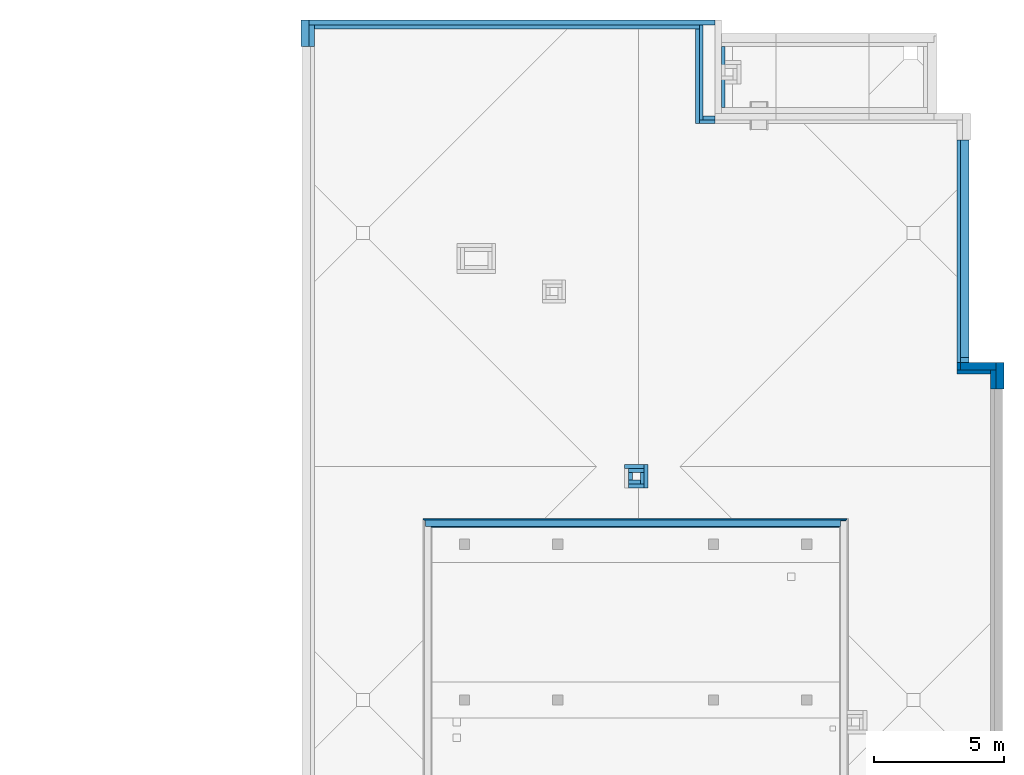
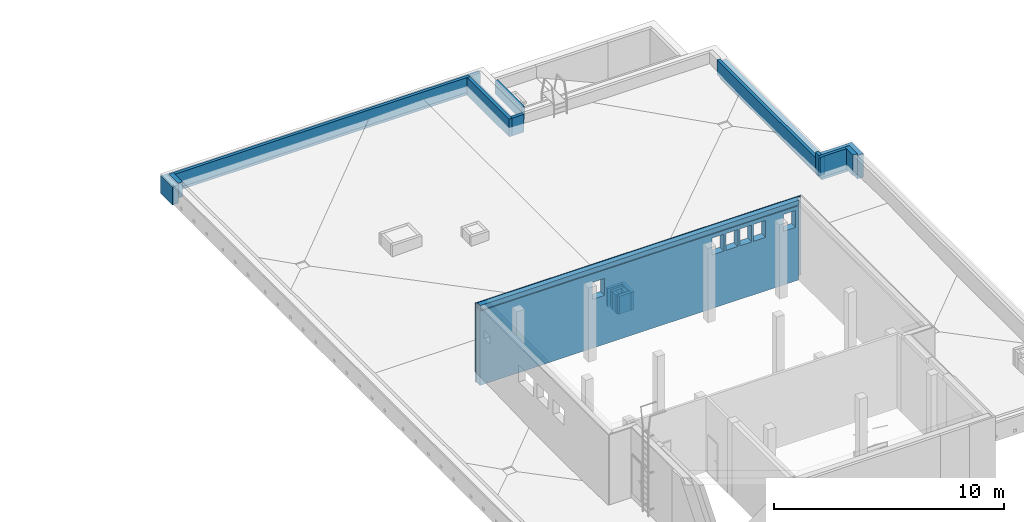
# One storey, part 7 of 17: 24 walls, 32 openings.
"""IFC4 building model written with IfcOpenShell, lengths in metres."""

from ifc_helpers import new_model, entity, si_unit, converted_unit, derived_unit, frame, frame_2d, origin, origin_with_axes, place, context, subcontext, project, spatial, polyline, rectangle, outline, extrude, clip, bounded_halfspace, material, layer, layer_set, layer_usage, element, save


model = new_model("IFC4")

# Units and contexts
model_context = context("Model", 3, precision=1e-05, world=origin())
body_context = subcontext(model_context, "Body", "Model", "MODEL_VIEW")
ifc_project = project(units=[si_unit("LENGTHUNIT", "METRE"), si_unit("AREAUNIT", "SQUARE_METRE"), si_unit("VOLUMEUNIT", "CUBIC_METRE"), si_unit("MASSUNIT", "GRAM", prefix="KILO"), converted_unit("PLANEANGLEUNIT", "DEGREE", entity("IfcPlaneAngleMeasure", 0.0174532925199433), si_unit("PLANEANGLEUNIT", "RADIAN"), dimensions=[0, 0, 0, 0, 0, 0, 0]), derived_unit("THERMALTRANSMITTANCEUNIT", [(si_unit("POWERUNIT", "WATT"), 1), (si_unit("THERMODYNAMICTEMPERATUREUNIT", "KELVIN"), -1), (si_unit("LENGTHUNIT", "METRE"), -2)]), derived_unit("VOLUMETRICFLOWRATEUNIT", [(si_unit("LENGTHUNIT", "METRE"), 3), (converted_unit("TIMEUNIT", "hour", entity("IfcTimeMeasure", 3600.0), si_unit("TIMEUNIT", "SECOND"), dimensions=[0, 0, 1, 0, 0, 0, 0]), -1), (si_unit("LENGTHUNIT", "METRE"), -1)])], contexts=[model_context])

# Site, building, storey
site_placement = place(None, origin())
site = spatial("IfcSite", under=ifc_project, at=site_placement, Name="3. ASŘ", CompositionType="ELEMENT")
building_placement = place(site_placement, origin())
building = spatial("IfcBuilding", under=site, at=building_placement, Name="Pavilon C", CompositionType="ELEMENT")
storey_placement = place(building_placement, frame((0.0, 0.0, 13.8)))
storey = spatial("IfcBuildingStorey", under=building, at=storey_placement, Name="Půdorys 5.NP", CompositionType="ELEMENT", Elevation=13.8)

# Walls
ifc_material_1 = material(Name="ZDIVO Z CDm")
ifc_layer_1 = layer(ifc_material_1, 0.150000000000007)
ifc_layer_set_1 = layer_set([ifc_layer_1])
ifc_layer_usage_1 = layer_usage(ifc_layer_set_1, "AXIS2", "POSITIVE", 0.0)
wall_1_placement = place(storey_placement, frame((37.525, 15.975, -0.1), z_axis=(0.0, 0.0, 1.0), x_axis=(0.0, -1.0, 0.0)))
element("IfcWall", 1, at=wall_1_placement, inside=storey, material=ifc_layer_usage_1, Name="ZDIVO Z CDm", context=body_context, shape_type="SweptSolid", body=[
    extrude(rectangle(XDim=0.450000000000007, YDim=0.150000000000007, at=frame_2d((0.225000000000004, 0.0750000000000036), x_axis=(1.0, 0.0))), origin_with_axes(), (0.0, 0.0, 1.0), 0.95),
])
ifc_material_2 = material(Name="ZDIVO Z CDm")
ifc_layer_2 = layer(ifc_material_2, 0.150000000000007)
ifc_layer_set_2 = layer_set([ifc_layer_2])
ifc_layer_usage_2 = layer_usage(ifc_layer_set_2, "AXIS2", "POSITIVE", 0.0)
wall_2_placement = place(storey_placement, frame((37.525, 15.675, -0.1), z_axis=(0.0, 0.0, 1.0), x_axis=(-1.0, 0.0, 0.0)))
element("IfcWall", 2, at=wall_2_placement, inside=storey, material=ifc_layer_usage_2, Name="ZDIVO Z CDm", context=body_context, shape_type="SweptSolid", body=[
    extrude(rectangle(XDim=0.450000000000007, YDim=0.150000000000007, at=frame_2d((0.225000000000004, 0.0750000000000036), x_axis=(1.0, 0.0))), origin_with_axes(), (0.0, 0.0, 1.0), 0.95),
])
ifc_material_3 = material(Name="ZDIVO Z CDm")
ifc_layer_3 = layer(ifc_material_3, 0.150000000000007)
ifc_layer_set_3 = layer_set([ifc_layer_3])
ifc_layer_usage_3 = layer_usage(ifc_layer_set_3, "AXIS2", "POSITIVE", 0.0)
wall_3_placement = place(storey_placement, frame((37.225, 15.675, -0.1), z_axis=(0.0, 0.0, 1.0), x_axis=(-4.85063840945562e-14, 1.0, 0.0)))
element("IfcWall", 3, at=wall_3_placement, inside=storey, material=ifc_layer_usage_3, Name="ZDIVO Z CDm", context=body_context, shape_type="SweptSolid", body=[
    extrude(rectangle(XDim=0.3, YDim=0.150000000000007, at=frame_2d((0.15, 0.0750000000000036), x_axis=(1.0, 0.0))), origin_with_axes(), (0.0, 0.0, 1.0), 0.95),
])
ifc_material_4 = material(Name="ZDIVO Z CDm")
ifc_layer_4 = layer(ifc_material_4, 0.150000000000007)
ifc_layer_set_4 = layer_set([ifc_layer_4])
ifc_layer_usage_4 = layer_usage(ifc_layer_set_4, "AXIS2", "POSITIVE", 0.0)
wall_4_placement = place(storey_placement, frame((37.075, 15.975, -0.1)))
element("IfcWall", 4, at=wall_4_placement, inside=storey, material=ifc_layer_usage_4, Name="ZDIVO Z CDm", context=body_context, shape_type="SweptSolid", body=[
    extrude(rectangle(XDim=0.600000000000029, YDim=0.150000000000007, at=frame_2d((0.300000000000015, 0.0750000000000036), x_axis=(1.0, 0.0))), origin_with_axes(), (0.0, 0.0, 1.0), 0.95),
])

# Wall, openings
ifc_material_5 = material(Name="EPS")
ifc_layer_5 = layer(ifc_material_5, 0.05)
ifc_material_6 = material(Name="PLYNOSILIKÁT")
ifc_layer_6 = layer(ifc_material_6, 0.3)
ifc_layer_set_5 = layer_set([ifc_layer_5, ifc_layer_6])
ifc_layer_usage_5 = layer_usage(ifc_layer_set_5, "AXIS2", "POSITIVE", -0.05)
wall_5_placement = place(storey_placement, frame((45.5, 14.2, -0.1), z_axis=(0.0, 0.0, 1.0), x_axis=(-1.0, 0.0, 0.0)))
wall_5 = element("IfcWall", 5, at=wall_5_placement, inside=storey, material=ifc_layer_usage_5, Name="PLYNOSILIKÁT", context=body_context, shape_type="Clipping", body=[
    clip(extrude(outline(polyline([(-16.35, -0.35), (0.0, -0.35), (0.0, -0.3), (-0.05, -0.3), (-0.05, 0.0), (-16.05, 0.0), (-16.05, -0.3), (-16.35, -0.3), (-16.35, -0.35)])), frame((16.35, 0.35, 0.0), z_axis=(0.0, 0.0, 1.0), x_axis=(1.0, 0.0, 0.0)), (0.0, 0.0, 1.0), 4.2), bounded_halfspace(frame((8.3, 0.2, 3.95), z_axis=(0.0, 0.0, -1.0), x_axis=(1.0, 0.0, 0.0)), True, origin_with_axes(), polyline([(0.3, 0.05), (16.3, 0.05), (16.3, 0.35), (0.3, 0.35), (0.3, 0.05)]))),
])
opening_1_placement = place(wall_5_placement, frame((4.05, 0.0, 2.85), z_axis=(0.0, 1.0, 0.0), x_axis=(0.0, 0.0, 1.0)))
element("IfcOpeningElement", 6, at=opening_1_placement, cuts=wall_5, Name="Prostup stěnou", ObjectType="Opening", context=body_context, shape_type="SweptSolid", body=[
    extrude(outline(polyline([(0.0, 0.6), (0.9, 0.6), (0.9, 0.0), (0.0, 0.0), (0.0, 0.6)])), origin_with_axes(), (0.0, 0.0, 1.0), 0.05),
    extrude(outline(polyline([(0.0, 0.6), (0.9, 0.6), (0.9, 0.0), (0.0, 0.0), (0.0, 0.6)])), frame((0.0, 0.0, 0.05), z_axis=(0.0, 0.0, 1.0), x_axis=(1.0, 0.0, 0.0)), (0.0, 0.0, 1.0), 0.3),
])
opening_2_placement = place(wall_5_placement, frame((3.35, 0.0, 2.85), z_axis=(0.0, 1.0, 0.0), x_axis=(0.0, 0.0, 1.0)))
element("IfcOpeningElement", 7, at=opening_2_placement, cuts=wall_5, Name="Prostup stěnou", ObjectType="Opening", context=body_context, shape_type="SweptSolid", body=[
    extrude(outline(polyline([(0.0, 0.6), (0.9, 0.6), (0.9, 0.0), (0.0, 0.0), (0.0, 0.6)])), origin_with_axes(), (0.0, 0.0, 1.0), 0.05),
    extrude(outline(polyline([(0.0, 0.6), (0.9, 0.6), (0.9, 0.0), (0.0, 0.0), (0.0, 0.6)])), frame((0.0, 0.0, 0.05), z_axis=(0.0, 0.0, 1.0), x_axis=(1.0, 0.0, 0.0)), (0.0, 0.0, 1.0), 0.3),
])
opening_3_placement = place(wall_5_placement, frame((2.65, 0.0, 2.85), z_axis=(0.0, 1.0, 0.0), x_axis=(0.0, 0.0, 1.0)))
element("IfcOpeningElement", 8, at=opening_3_placement, cuts=wall_5, Name="Prostup stěnou", ObjectType="Opening", context=body_context, shape_type="SweptSolid", body=[
    extrude(outline(polyline([(0.0, 0.6), (0.9, 0.6), (0.9, 0.0), (0.0, 0.0), (0.0, 0.6)])), origin_with_axes(), (0.0, 0.0, 1.0), 0.05),
    extrude(outline(polyline([(0.0, 0.6), (0.9, 0.6), (0.9, 0.0), (0.0, 0.0), (0.0, 0.6)])), frame((0.0, 0.0, 0.05), z_axis=(0.0, 0.0, 1.0), x_axis=(1.0, 0.0, 0.0)), (0.0, 0.0, 1.0), 0.3),
])
opening_4_placement = place(wall_5_placement, frame((1.95, 0.0, 2.85), z_axis=(0.0, 1.0, 0.0), x_axis=(0.0, 0.0, 1.0)))
element("IfcOpeningElement", 9, at=opening_4_placement, cuts=wall_5, Name="Prostup stěnou", ObjectType="Opening", context=body_context, shape_type="SweptSolid", body=[
    extrude(outline(polyline([(0.0, 0.6), (0.9, 0.6), (0.9, 0.0), (0.0, 0.0), (0.0, 0.6)])), origin_with_axes(), (0.0, 0.0, 1.0), 0.05),
    extrude(outline(polyline([(0.0, 0.6), (0.9, 0.6), (0.9, 0.0), (0.0, 0.0), (0.0, 0.6)])), frame((0.0, 0.0, 0.05), z_axis=(0.0, 0.0, 1.0), x_axis=(1.0, 0.0, 0.0)), (0.0, 0.0, 1.0), 0.3),
])
opening_5_placement = place(wall_5_placement, frame((0.45, 0.0, 2.85), z_axis=(0.0, 1.0, 0.0), x_axis=(0.0, 0.0, 1.0)))
element("IfcOpeningElement", 10, at=opening_5_placement, cuts=wall_5, Name="Prostup stěnou", ObjectType="Opening", context=body_context, shape_type="SweptSolid", body=[
    extrude(outline(polyline([(0.0, 0.6), (0.9, 0.6), (0.9, 0.0), (0.0, 0.0), (0.0, 0.6)])), origin_with_axes(), (0.0, 0.0, 1.0), 0.05),
    extrude(outline(polyline([(0.0, 0.6), (0.9, 0.6), (0.9, 0.0), (0.0, 0.0), (0.0, 0.6)])), frame((0.0, 0.0, 0.05), z_axis=(0.0, 0.0, 1.0), x_axis=(1.0, 0.0, 0.0)), (0.0, 0.0, 1.0), 0.3),
])
opening_6_placement = place(wall_5_placement, frame((10.05, 0.0, 2.6), z_axis=(0.0, 1.0, 0.0), x_axis=(0.0, 0.0, 1.0)))
element("IfcOpeningElement", 11, at=opening_6_placement, cuts=wall_5, Name="Prostup stěnou", ObjectType="Opening", context=body_context, shape_type="SweptSolid", body=[
    extrude(outline(polyline([(0.0, 0.6), (0.9, 0.6), (0.9, 0.0), (0.0, 0.0), (0.0, 0.6)])), origin_with_axes(), (0.0, 0.0, 1.0), 0.05),
    extrude(outline(polyline([(0.0, 0.6), (0.9, 0.6), (0.9, 0.0), (0.0, 0.0), (0.0, 0.6)])), frame((0.0, 0.0, 0.05), z_axis=(0.0, 0.0, 1.0), x_axis=(1.0, 0.0, 0.0)), (0.0, 0.0, 1.0), 0.3),
])

ifc_material_7 = material(Name="ZELEZOBETONOVÁ KCE")
ifc_layer_7 = layer(ifc_material_7, 0.2)
ifc_layer_set_6 = layer_set([ifc_layer_7])
ifc_layer_usage_6 = layer_usage(ifc_layer_set_6, "AXIS2", "POSITIVE", 0.0)
wall_6_placement = place(storey_placement, frame((40.4, 33.42, -0.1), z_axis=(0.0, 0.0, 1.0), x_axis=(-1.0, 0.0, 0.0)))
wall_6 = element("IfcWall", 12, at=wall_6_placement, inside=storey, material=ifc_layer_usage_6, Name="ZELEZOBETONOVÁ KCE", context=body_context, shape_type="SweptSolid", body=[
    extrude(rectangle(XDim=15.65, YDim=0.2, at=frame_2d((7.825, 0.1), x_axis=(1.0, 0.0))), origin_with_axes(), (0.0, 0.0, 1.0), 0.95),
])
opening_7_placement = place(wall_6_placement, frame((9.50000000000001, 0.0, 0.15), z_axis=(0.0, 1.0, 0.0), x_axis=(0.0, 0.0, 1.0)))
element("IfcOpeningElement", 13, at=opening_7_placement, cuts=wall_6, Name="Prostup stěnou", ObjectType="Opening", context=body_context, shape_type="SweptSolid", body=[
    extrude(outline(polyline([(0.0, 0.15), (0.15, 0.15), (0.15, 0.0), (0.0, 0.0), (0.0, 0.15)])), origin_with_axes(), (0.0, 0.0, 1.0), 0.2),
])
opening_8_placement = place(wall_6_placement, frame((10.25, 0.0, 0.15), z_axis=(0.0, 1.0, 0.0), x_axis=(0.0, 0.0, 1.0)))
element("IfcOpeningElement", 14, at=opening_8_placement, cuts=wall_6, Name="Prostup stěnou", ObjectType="Opening", context=body_context, shape_type="SweptSolid", body=[
    extrude(outline(polyline([(0.0, 0.15), (0.15, 0.15), (0.15, 0.0), (0.0, 0.0), (0.0, 0.15)])), origin_with_axes(), (0.0, 0.0, 1.0), 0.2),
])
opening_9_placement = place(wall_6_placement, frame((11.15, 0.0, 0.15), z_axis=(0.0, 1.0, 0.0), x_axis=(0.0, 0.0, 1.0)))
element("IfcOpeningElement", 15, at=opening_9_placement, cuts=wall_6, Name="Prostup stěnou", ObjectType="Opening", context=body_context, shape_type="SweptSolid", body=[
    extrude(outline(polyline([(0.0, 0.15), (0.15, 0.15), (0.15, 0.0), (0.0, 0.0), (0.0, 0.15)])), origin_with_axes(), (0.0, 0.0, 1.0), 0.2),
])
opening_10_placement = place(wall_6_placement, frame((11.9, 0.0, 0.15), z_axis=(0.0, 1.0, 0.0), x_axis=(0.0, 0.0, 1.0)))
element("IfcOpeningElement", 16, at=opening_10_placement, cuts=wall_6, Name="Prostup stěnou", ObjectType="Opening", context=body_context, shape_type="SweptSolid", body=[
    extrude(outline(polyline([(0.0, 0.15), (0.15, 0.15), (0.15, 0.0), (0.0, 0.0), (0.0, 0.15)])), origin_with_axes(), (0.0, 0.0, 1.0), 0.2),
])
opening_11_placement = place(wall_6_placement, frame((12.8, 0.0, 0.15), z_axis=(0.0, 1.0, 0.0), x_axis=(0.0, 0.0, 1.0)))
element("IfcOpeningElement", 17, at=opening_11_placement, cuts=wall_6, Name="Prostup stěnou", ObjectType="Opening", context=body_context, shape_type="SweptSolid", body=[
    extrude(outline(polyline([(0.0, 0.15), (0.15, 0.15), (0.15, 0.0), (0.0, 0.0), (0.0, 0.15)])), origin_with_axes(), (0.0, 0.0, 1.0), 0.2),
])
opening_12_placement = place(wall_6_placement, frame((13.55, 0.0, 0.15), z_axis=(0.0, 1.0, 0.0), x_axis=(0.0, 0.0, 1.0)))
element("IfcOpeningElement", 18, at=opening_12_placement, cuts=wall_6, Name="Prostup stěnou", ObjectType="Opening", context=body_context, shape_type="SweptSolid", body=[
    extrude(outline(polyline([(0.0, 0.15), (0.15, 0.15), (0.15, 0.0), (0.0, 0.0), (0.0, 0.15)])), origin_with_axes(), (0.0, 0.0, 1.0), 0.2),
])
opening_13_placement = place(wall_6_placement, frame((14.45, 0.0, 0.15), z_axis=(0.0, 1.0, 0.0), x_axis=(0.0, 0.0, 1.0)))
element("IfcOpeningElement", 19, at=opening_13_placement, cuts=wall_6, Name="Prostup stěnou", ObjectType="Opening", context=body_context, shape_type="SweptSolid", body=[
    extrude(outline(polyline([(0.0, 0.15), (0.15, 0.15), (0.15, 0.0), (0.0, 0.0), (0.0, 0.15)])), origin_with_axes(), (0.0, 0.0, 1.0), 0.2),
])
opening_14_placement = place(wall_6_placement, frame((15.2, 0.0, 0.15), z_axis=(0.0, 1.0, 0.0), x_axis=(0.0, 0.0, 1.0)))
element("IfcOpeningElement", 20, at=opening_14_placement, cuts=wall_6, Name="Prostup stěnou", ObjectType="Opening", context=body_context, shape_type="SweptSolid", body=[
    extrude(outline(polyline([(0.0, 0.15), (0.15, 0.15), (0.15, 0.0), (0.0, 0.0), (0.0, 0.15)])), origin_with_axes(), (0.0, 0.0, 1.0), 0.2),
])
opening_15_placement = place(wall_6_placement, frame((1.25000000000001, 0.0, 0.15), z_axis=(0.0, 1.0, 0.0), x_axis=(0.0, 0.0, 1.0)))
element("IfcOpeningElement", 21, at=opening_15_placement, cuts=wall_6, Name="Prostup stěnou", ObjectType="Opening", context=body_context, shape_type="SweptSolid", body=[
    extrude(outline(polyline([(0.0, 0.15), (0.15, 0.15), (0.15, 0.0), (0.0, 0.0), (0.0, 0.15)])), origin_with_axes(), (0.0, 0.0, 1.0), 0.2),
])
opening_16_placement = place(wall_6_placement, frame((2.00000000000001, 0.0, 0.15), z_axis=(0.0, 1.0, 0.0), x_axis=(0.0, 0.0, 1.0)))
element("IfcOpeningElement", 22, at=opening_16_placement, cuts=wall_6, Name="Prostup stěnou", ObjectType="Opening", context=body_context, shape_type="SweptSolid", body=[
    extrude(outline(polyline([(0.0, 0.15), (0.15, 0.15), (0.15, 0.0), (0.0, 0.0), (0.0, 0.15)])), origin_with_axes(), (0.0, 0.0, 1.0), 0.2),
])
opening_17_placement = place(wall_6_placement, frame((2.90000000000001, 0.0, 0.15), z_axis=(0.0, 1.0, 0.0), x_axis=(0.0, 0.0, 1.0)))
element("IfcOpeningElement", 23, at=opening_17_placement, cuts=wall_6, Name="Prostup stěnou", ObjectType="Opening", context=body_context, shape_type="SweptSolid", body=[
    extrude(outline(polyline([(0.0, 0.15), (0.15, 0.15), (0.15, 0.0), (0.0, 0.0), (0.0, 0.15)])), origin_with_axes(), (0.0, 0.0, 1.0), 0.2),
])
opening_18_placement = place(wall_6_placement, frame((3.65000000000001, 0.0, 0.15), z_axis=(0.0, 1.0, 0.0), x_axis=(0.0, 0.0, 1.0)))
element("IfcOpeningElement", 24, at=opening_18_placement, cuts=wall_6, Name="Prostup stěnou", ObjectType="Opening", context=body_context, shape_type="SweptSolid", body=[
    extrude(outline(polyline([(0.0, 0.15), (0.15, 0.15), (0.15, 0.0), (0.0, 0.0), (0.0, 0.15)])), origin_with_axes(), (0.0, 0.0, 1.0), 0.2),
])
opening_19_placement = place(wall_6_placement, frame((4.55000000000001, 0.0, 0.15), z_axis=(0.0, 1.0, 0.0), x_axis=(0.0, 0.0, 1.0)))
element("IfcOpeningElement", 25, at=opening_19_placement, cuts=wall_6, Name="Prostup stěnou", ObjectType="Opening", context=body_context, shape_type="SweptSolid", body=[
    extrude(outline(polyline([(0.0, 0.15), (0.15, 0.15), (0.15, 0.0), (0.0, 0.0), (0.0, 0.15)])), origin_with_axes(), (0.0, 0.0, 1.0), 0.2),
])
opening_20_placement = place(wall_6_placement, frame((5.30000000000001, 0.0, 0.15), z_axis=(0.0, 1.0, 0.0), x_axis=(0.0, 0.0, 1.0)))
element("IfcOpeningElement", 26, at=opening_20_placement, cuts=wall_6, Name="Prostup stěnou", ObjectType="Opening", context=body_context, shape_type="SweptSolid", body=[
    extrude(outline(polyline([(0.0, 0.15), (0.15, 0.15), (0.15, 0.0), (0.0, 0.0), (0.0, 0.15)])), origin_with_axes(), (0.0, 0.0, 1.0), 0.2),
])
opening_21_placement = place(wall_6_placement, frame((6.20000000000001, 0.0, 0.15), z_axis=(0.0, 1.0, 0.0), x_axis=(0.0, 0.0, 1.0)))
element("IfcOpeningElement", 27, at=opening_21_placement, cuts=wall_6, Name="Prostup stěnou", ObjectType="Opening", context=body_context, shape_type="SweptSolid", body=[
    extrude(outline(polyline([(0.0, 0.15), (0.15, 0.15), (0.15, 0.0), (0.0, 0.0), (0.0, 0.15)])), origin_with_axes(), (0.0, 0.0, 1.0), 0.2),
])
opening_22_placement = place(wall_6_placement, frame((6.95000000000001, 0.0, 0.15), z_axis=(0.0, 1.0, 0.0), x_axis=(0.0, 0.0, 1.0)))
element("IfcOpeningElement", 28, at=opening_22_placement, cuts=wall_6, Name="Prostup stěnou", ObjectType="Opening", context=body_context, shape_type="SweptSolid", body=[
    extrude(outline(polyline([(0.0, 0.15), (0.15, 0.15), (0.15, 0.0), (0.0, 0.0), (0.0, 0.15)])), origin_with_axes(), (0.0, 0.0, 1.0), 0.2),
])
opening_23_placement = place(wall_6_placement, frame((7.85000000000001, 0.0, 0.15), z_axis=(0.0, 1.0, 0.0), x_axis=(0.0, 0.0, 1.0)))
element("IfcOpeningElement", 29, at=opening_23_placement, cuts=wall_6, Name="Prostup stěnou", ObjectType="Opening", context=body_context, shape_type="SweptSolid", body=[
    extrude(outline(polyline([(0.0, 0.15), (0.15, 0.15), (0.15, 0.0), (0.0, 0.0), (0.0, 0.15)])), origin_with_axes(), (0.0, 0.0, 1.0), 0.2),
])
opening_24_placement = place(wall_6_placement, frame((8.60000000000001, 0.0, 0.15), z_axis=(0.0, 1.0, 0.0), x_axis=(0.0, 0.0, 1.0)))
element("IfcOpeningElement", 30, at=opening_24_placement, cuts=wall_6, Name="Prostup stěnou", ObjectType="Opening", context=body_context, shape_type="SweptSolid", body=[
    extrude(outline(polyline([(0.0, 0.15), (0.15, 0.15), (0.15, 0.0), (0.0, 0.0), (0.0, 0.15)])), origin_with_axes(), (0.0, 0.0, 1.0), 0.2),
])
opening_25_placement = place(wall_6_placement, frame((0.350000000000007, 0.0, 0.15), z_axis=(0.0, 1.0, 0.0), x_axis=(0.0, 0.0, 1.0)))
element("IfcOpeningElement", 31, at=opening_25_placement, cuts=wall_6, Name="Prostup stěnou", ObjectType="Opening", context=body_context, shape_type="SweptSolid", body=[
    extrude(outline(polyline([(0.0, 0.15), (0.15, 0.15), (0.15, 0.0), (0.0, 0.0), (0.0, 0.15)])), origin_with_axes(), (0.0, 0.0, 1.0), 0.2),
])

# Walls
ifc_material_8 = material(Name="ZELEZOBETONOVÁ KCE")
ifc_layer_8 = layer(ifc_material_8, 0.3)
ifc_layer_set_7 = layer_set([ifc_layer_8])
ifc_layer_usage_7 = layer_usage(ifc_layer_set_7, "AXIS2", "POSITIVE", 0.0)
wall_7_placement = place(storey_placement, frame((24.45, 33.42, -0.1), z_axis=(0.0, 0.0, 1.0), x_axis=(0.0, -1.0, 0.0)))
element("IfcWall", 32, at=wall_7_placement, inside=storey, material=ifc_layer_usage_7, Name="ZELEZOBETONOVÁ KCE", context=body_context, shape_type="SweptSolid", body=[
    extrude(rectangle(XDim=1.02, YDim=0.3, at=frame_2d((0.51, 0.15), x_axis=(1.0, 0.0))), origin_with_axes(), (0.0, 0.0, 1.0), 0.95),
])
ifc_material_9 = material(Name="ZELEZOBETONOVÁ KCE")
ifc_layer_9 = layer(ifc_material_9, 0.3)
ifc_layer_set_8 = layer_set([ifc_layer_9])
ifc_layer_usage_8 = layer_usage(ifc_layer_set_8, "AXIS2", "POSITIVE", 0.0)
wall_8_placement = place(storey_placement, frame((51.55, 19.2, -0.1), z_axis=(0.0, 0.0, 1.0), x_axis=(0.0, 1.0, 0.0)))
element("IfcWall", 33, at=wall_8_placement, inside=storey, material=ifc_layer_usage_8, Name="ZELEZOBETONOVÁ KCE", context=body_context, shape_type="SweptSolid", body=[
    extrude(rectangle(XDim=1.02, YDim=0.3, at=frame_2d((0.509999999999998, 0.15), x_axis=(1.0, 0.0))), origin_with_axes(), (0.0, 0.0, 1.0), 1.25),
])
ifc_material_10 = material(Name="ZDIVO Z CDm")
ifc_layer_10 = layer(ifc_material_10, 0.32)
ifc_layer_set_9 = layer_set([ifc_layer_10])
ifc_layer_usage_9 = layer_usage(ifc_layer_set_9, "AXIS2", "POSITIVE", 0.0)
wall_9_placement = place(storey_placement, frame((50.2, 20.22, -0.1), z_axis=(0.0, 0.0, 1.0), x_axis=(0.0, 1.0, 0.0)))
element("IfcWall", 34, at=wall_9_placement, inside=storey, material=ifc_layer_usage_9, Name="ZDIVO Z CDm", context=body_context, shape_type="SweptSolid", body=[
    extrude(rectangle(XDim=0.18, YDim=0.32, at=frame_2d((0.09, 0.16), x_axis=(1.0, 0.0))), origin_with_axes(), (0.0, 0.0, 1.0), 0.95),
])
ifc_material_11 = material(Name="ZELEZOBETONOVÁ KCE")
ifc_layer_11 = layer(ifc_material_11, 0.3)
ifc_layer_set_10 = layer_set([ifc_layer_11])
ifc_layer_usage_10 = layer_usage(ifc_layer_set_10, "AXIS2", "POSITIVE", 0.0)
wall_10_placement = place(storey_placement, frame((51.25, 20.22, -0.1), z_axis=(0.0, 0.0, 1.0), x_axis=(-1.0, 0.0, 0.0)))
element("IfcWall", 35, at=wall_10_placement, inside=storey, material=ifc_layer_usage_10, Name="ZELEZOBETONOVÁ KCE", context=body_context, shape_type="SweptSolid", body=[
    extrude(rectangle(XDim=1.37, YDim=0.3, at=frame_2d((0.685, 0.15), x_axis=(1.0, 0.0))), origin_with_axes(), (0.0, 0.0, 1.0), 1.25),
])

# Wall, openings
ifc_material_12 = material(Name="ZELEZOBETONOVÁ KCE")
ifc_layer_12 = layer(ifc_material_12, 0.32)
ifc_layer_set_11 = layer_set([ifc_layer_12])
ifc_layer_usage_11 = layer_usage(ifc_layer_set_11, "AXIS2", "POSITIVE", 0.0)
wall_11_placement = place(storey_placement, frame((50.2, 20.4, -0.1), z_axis=(0.0, 0.0, 1.0), x_axis=(0.0, 1.0, 0.0)))
wall_11 = element("IfcWall", 36, at=wall_11_placement, inside=storey, material=ifc_layer_usage_11, Name="ZELEZOBETONOVÁ KCE", context=body_context, shape_type="SweptSolid", body=[
    extrude(rectangle(XDim=8.39999999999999, YDim=0.32, at=frame_2d((4.2, 0.16), x_axis=(1.0, 0.0))), origin_with_axes(), (0.0, 0.0, 1.0), 0.95),
])
opening_26_placement = place(wall_11_placement, frame((7.625, 0.0, 0.15), z_axis=(0.0, 1.0, 0.0), x_axis=(0.0, 0.0, 1.0)))
element("IfcOpeningElement", 37, at=opening_26_placement, cuts=wall_11, Name="Prostup stěnou", ObjectType="Opening", context=body_context, shape_type="SweptSolid", body=[
    extrude(outline(polyline([(0.0, 0.15), (0.15, 0.15), (0.15, 0.0), (0.0, 0.0), (0.0, 0.15)])), origin_with_axes(), (0.0, 0.0, 1.0), 0.32),
])
opening_27_placement = place(wall_11_placement, frame((6.525, 0.0, 0.15), z_axis=(0.0, 1.0, 0.0), x_axis=(0.0, 0.0, 1.0)))
element("IfcOpeningElement", 38, at=opening_27_placement, cuts=wall_11, Name="Prostup stěnou", ObjectType="Opening", context=body_context, shape_type="SweptSolid", body=[
    extrude(outline(polyline([(0.0, 0.15), (0.15, 0.15), (0.15, 0.0), (0.0, 0.0), (0.0, 0.15)])), origin_with_axes(), (0.0, 0.0, 1.0), 0.32),
])
opening_28_placement = place(wall_11_placement, frame((5.425, 0.0, 0.15), z_axis=(0.0, 1.0, 0.0), x_axis=(0.0, 0.0, 1.0)))
element("IfcOpeningElement", 39, at=opening_28_placement, cuts=wall_11, Name="Prostup stěnou", ObjectType="Opening", context=body_context, shape_type="SweptSolid", body=[
    extrude(outline(polyline([(0.0, 0.15), (0.15, 0.15), (0.15, 0.0), (0.0, 0.0), (0.0, 0.15)])), origin_with_axes(), (0.0, 0.0, 1.0), 0.32),
])
opening_29_placement = place(wall_11_placement, frame((3.925, 0.0, 0.15), z_axis=(0.0, 1.0, 0.0), x_axis=(0.0, 0.0, 1.0)))
element("IfcOpeningElement", 40, at=opening_29_placement, cuts=wall_11, Name="Prostup stěnou", ObjectType="Opening", context=body_context, shape_type="SweptSolid", body=[
    extrude(outline(polyline([(0.0, 0.15), (0.15, 0.15), (0.15, 0.0), (0.0, 0.0), (0.0, 0.15)])), origin_with_axes(), (0.0, 0.0, 1.0), 0.32),
])
opening_30_placement = place(wall_11_placement, frame((2.825, 0.0, 0.15), z_axis=(0.0, 1.0, 0.0), x_axis=(0.0, 0.0, 1.0)))
element("IfcOpeningElement", 41, at=opening_30_placement, cuts=wall_11, Name="Prostup stěnou", ObjectType="Opening", context=body_context, shape_type="SweptSolid", body=[
    extrude(outline(polyline([(0.0, 0.15), (0.15, 0.15), (0.15, 0.0), (0.0, 0.0), (0.0, 0.15)])), origin_with_axes(), (0.0, 0.0, 1.0), 0.32),
])
opening_31_placement = place(wall_11_placement, frame((1.725, 0.0, 0.15), z_axis=(0.0, 1.0, 0.0), x_axis=(0.0, 0.0, 1.0)))
element("IfcOpeningElement", 42, at=opening_31_placement, cuts=wall_11, Name="Prostup stěnou", ObjectType="Opening", context=body_context, shape_type="SweptSolid", body=[
    extrude(outline(polyline([(0.0, 0.15), (0.15, 0.15), (0.15, 0.0), (0.0, 0.0), (0.0, 0.15)])), origin_with_axes(), (0.0, 0.0, 1.0), 0.32),
])
opening_32_placement = place(wall_11_placement, frame((0.624999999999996, 0.0, 0.15), z_axis=(0.0, 1.0, 0.0), x_axis=(0.0, 0.0, 1.0)))
element("IfcOpeningElement", 43, at=opening_32_placement, cuts=wall_11, Name="Prostup stěnou", ObjectType="Opening", context=body_context, shape_type="SweptSolid", body=[
    extrude(outline(polyline([(0.0, 0.15), (0.15, 0.15), (0.15, 0.0), (0.0, 0.0), (0.0, 0.15)])), origin_with_axes(), (0.0, 0.0, 1.0), 0.32),
])

# Walls
ifc_material_13 = material(Name="HERAKLIT")
ifc_layer_13 = layer(ifc_material_13, 0.05)
ifc_material_14 = material(Name="ZELEZOBETONOVÁ KCE")
ifc_layer_14 = layer(ifc_material_14, 0.2)
ifc_layer_set_12 = layer_set([ifc_layer_13, ifc_layer_14])
ifc_layer_usage_12 = layer_usage(ifc_layer_set_12, "AXIS2", "POSITIVE", 0.0)
wall_12_placement = place(storey_placement, frame((45.45, 14.15, 3.85), z_axis=(0.0, 0.0, 1.0), x_axis=(-1.0, -1.11937809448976e-16, 0.0)))
element("IfcWall", 44, at=wall_12_placement, inside=storey, material=ifc_layer_usage_12, context=body_context, shape_type="SweptSolid", body=[
    extrude(outline(polyline([(-16.25, -0.25), (-2.79844523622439e-17, -0.25), (-2.23875618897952e-17, -0.2), (-0.05, -0.2), (-0.05, 5.59689047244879e-18), (-16.05, -2.23875618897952e-17), (-16.05, -0.2), (-16.25, -0.2), (-16.25, -0.25)])), frame((16.25, 0.25, 0.0), z_axis=(0.0, 0.0, 1.0), x_axis=(1.0, 0.0, 0.0)), (0.0, 0.0, 1.0), 0.25),
])
ifc_material_15 = material(Name="YTONG 150")
ifc_layer_15 = layer(ifc_material_15, 0.15)
ifc_material_16 = material(Name="MINERÁLNÍ VATA")
ifc_layer_16 = layer(ifc_material_16, 0.15)
ifc_layer_set_13 = layer_set([ifc_layer_15, ifc_layer_16])
ifc_layer_usage_13 = layer_usage(ifc_layer_set_13, "AXIS2", "POSITIVE", 0.0)
wall_13_placement = place(storey_placement, frame((40.4, 29.72, 0.0), z_axis=(0.0, 0.0, 1.0), x_axis=(-1.0, 0.0, 0.0)))
element("IfcWall", 45, at=wall_13_placement, inside=storey, material=ifc_layer_usage_13, Name="MINERÁLNÍ VATA", context=body_context, shape_type="Clipping", body=[
    clip(extrude(outline(polyline([(-0.6, -0.3), (-0.15, -0.3), (-0.15, -0.15), (0.0, -0.15), (0.0, 0.0), (-0.6, 0.0), (-0.6, -0.3)])), frame((0.6, 0.3, 0.0), z_axis=(0.0, 0.0, 1.0), x_axis=(1.0, 0.0, 0.0)), (0.0, 0.0, 1.0), 0.95), bounded_halfspace(frame((0.225, 0.0749999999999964, 0.85), z_axis=(0.0, 0.0, -1.0), x_axis=(1.0, 0.0, 0.0)), True, origin_with_axes(), polyline([(0.0, -3.63797880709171e-15), (0.45, -3.63797880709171e-15), (0.45, 0.149999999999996), (0.0, 0.149999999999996), (0.0, -3.63797880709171e-15)]))),
])
ifc_material_17 = material(Name="YTONG 150")
ifc_layer_17 = layer(ifc_material_17, 0.15)
ifc_material_18 = material(Name="MINERÁLNÍ VATA")
ifc_layer_18 = layer(ifc_material_18, 0.15)
ifc_layer_set_14 = layer_set([ifc_layer_17, ifc_layer_18])
ifc_layer_usage_14 = layer_usage(ifc_layer_set_14, "AXIS2", "POSITIVE", 0.0)
wall_14_placement = place(storey_placement, frame((39.95, 29.57, 0.0), z_axis=(0.0, 0.0, 1.0), x_axis=(-5.98023913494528e-15, 1.0, 0.0)))
element("IfcWall", 46, at=wall_14_placement, inside=storey, material=ifc_layer_usage_14, Name="MINERÁLNÍ VATA", context=body_context, shape_type="Clipping", body=[
    clip(extrude(outline(polyline([(0.149999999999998, -0.300000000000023), (3.8, -0.300000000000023), (3.8, -0.150000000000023), (3.65, -0.150000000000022), (3.65, -2.18278728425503e-14), (-1.30535899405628e-28, -2.18278728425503e-14), (-8.97035870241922e-16, -0.150000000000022), (0.149999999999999, -0.150000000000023), (0.149999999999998, -0.300000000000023)])), frame((-0.149999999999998, 0.300000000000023, 0.0), z_axis=(0.0, 0.0, 1.0), x_axis=(1.0, 0.0, 0.0)), (0.0, 0.0, 1.0), 0.95), bounded_halfspace(frame((2.16000000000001, 0.0899999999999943, 0.85), z_axis=(0.0, 0.0, -1.0), x_axis=(1.0, -6.3108872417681e-30, 0.0)), True, origin_with_axes(), polyline([(-3.63797880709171e-15, 2.17559832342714e-29), (3.65, -3.23117426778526e-30), (3.65, 0.15), (3.5, 0.149999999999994), (-2.74094293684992e-15, 0.15), (-3.63797880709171e-15, 2.17559832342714e-29)]))),
])
ifc_material_19 = material(Name="MINERÁLNÍ VATA")
ifc_layer_19 = layer(ifc_material_19, 0.22)
ifc_layer_set_15 = layer_set([ifc_layer_19])
ifc_layer_usage_15 = layer_usage(ifc_layer_set_15, "AXIS2", "POSITIVE", 0.0)
wall_15_placement = place(storey_placement, frame((51.25, 19.2, 0.16), z_axis=(0.0, 0.0, 1.0), x_axis=(0.0, 1.0, 0.0)))
element("IfcWall", 47, at=wall_15_placement, inside=storey, material=ifc_layer_usage_15, Name="MINERÁLNÍ VATA", context=body_context, shape_type="SweptSolid", body=[
    extrude(rectangle(XDim=0.719999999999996, YDim=0.22, at=frame_2d((0.359999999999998, 0.11), x_axis=(1.0, 0.0))), origin_with_axes(), (0.0, 0.0, 1.0), 1.09),
])
ifc_material_20 = material(Name="MINERÁLNÍ VATA")
ifc_layer_20 = layer(ifc_material_20, 0.22)
ifc_layer_set_16 = layer_set([ifc_layer_20])
ifc_layer_usage_16 = layer_usage(ifc_layer_set_16, "AXIS2", "POSITIVE", 0.0)
wall_16_placement = place(storey_placement, frame((24.75, 33.22, 0.16), z_axis=(0.0, 0.0, 1.0), x_axis=(0.0, -1.0, 0.0)))
element("IfcWall", 48, at=wall_16_placement, inside=storey, material=ifc_layer_usage_16, Name="MINERÁLNÍ VATA", context=body_context, shape_type="SweptSolid", body=[
    extrude(rectangle(XDim=0.82, YDim=0.22, at=frame_2d((0.41, 0.11), x_axis=(1.0, 0.0))), origin_with_axes(), (0.0, 0.0, 1.0), 0.790000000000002),
])
ifc_material_21 = material(Name="MINERÁLNÍ VATA")
ifc_layer_21 = layer(ifc_material_21, 0.15)
ifc_layer_set_17 = layer_set([ifc_layer_21])
ifc_layer_usage_17 = layer_usage(ifc_layer_set_17, "AXIS2", "POSITIVE", 0.0)
wall_17_placement = place(storey_placement, frame((49.88, 20.22, 0.16), z_axis=(0.0, 0.0, 1.0), x_axis=(0.0, 1.0, 0.0)))
element("IfcWall", 49, at=wall_17_placement, inside=storey, material=ifc_layer_usage_17, Name="MINERÁLNÍ VATA", context=body_context, shape_type="SweptSolid", body=[
    extrude(rectangle(XDim=8.57999999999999, YDim=0.15, at=frame_2d((4.29, 0.075), x_axis=(1.0, 0.0))), origin_with_axes(), (0.0, 0.0, 1.0), 0.790000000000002),
])
ifc_material_22 = material(Name="MINERÁLNÍ VATA")
ifc_layer_22 = layer(ifc_material_22, 0.15)
ifc_layer_set_18 = layer_set([ifc_layer_22])
ifc_layer_usage_18 = layer_usage(ifc_layer_set_18, "AXIS2", "POSITIVE", 0.0)
wall_18_placement = place(storey_placement, frame((51.03, 19.92, 0.16), z_axis=(0.0, 0.0, 1.0), x_axis=(-1.0, 0.0, 0.0)))
element("IfcWall", 50, at=wall_18_placement, inside=storey, material=ifc_layer_usage_18, Name="MINERÁLNÍ VATA", context=body_context, shape_type="SweptSolid", body=[
    extrude(rectangle(XDim=1.3, YDim=0.15, at=frame_2d((0.65, 0.075), x_axis=(1.0, 0.0))), origin_with_axes(), (0.0, 0.0, 1.0), 1.09),
])
ifc_material_23 = material(Name="MINERÁLNÍ VATA")
ifc_layer_23 = layer(ifc_material_23, 0.15)
ifc_layer_set_19 = layer_set([ifc_layer_23])
ifc_layer_usage_19 = layer_usage(ifc_layer_set_19, "AXIS2", "POSITIVE", 0.0)
wall_19_placement = place(storey_placement, frame((39.8, 33.22, 0.16), z_axis=(0.0, 0.0, 1.0), x_axis=(-1.0, 0.0, 0.0)))
element("IfcWall", 51, at=wall_19_placement, inside=storey, material=ifc_layer_usage_19, Name="MINERÁLNÍ VATA", context=body_context, shape_type="SweptSolid", body=[
    extrude(rectangle(XDim=14.83, YDim=0.15, at=frame_2d((7.41499999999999, 0.075), x_axis=(1.0, 0.0))), origin_with_axes(), (0.0, 0.0, 1.0), 0.790000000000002),
])
ifc_material_24 = material(Name="MINERÁLNÍ VATA")
ifc_layer_24 = layer(ifc_material_24, 0.15)
ifc_layer_set_20 = layer_set([ifc_layer_24])
ifc_layer_usage_20 = layer_usage(ifc_layer_set_20, "AXIS2", "POSITIVE", 0.0)
wall_20_placement = place(storey_placement, frame((49.88, 19.92, 0.16), z_axis=(0.0, 0.0, 1.0), x_axis=(0.0, 1.0, 0.0)))
element("IfcWall", 52, at=wall_20_placement, inside=storey, material=ifc_layer_usage_20, Name="MINERÁLNÍ VATA", context=body_context, shape_type="SweptSolid", body=[
    extrude(rectangle(XDim=0.3, YDim=0.15, at=frame_2d((0.15, 0.075), x_axis=(1.0, 0.0))), origin_with_axes(), (0.0, 0.0, 1.0), 1.09),
])
ifc_material_25 = material(Name="MINERÁLNÍ VATA")
ifc_layer_25 = layer(ifc_material_25, 0.15)
ifc_layer_set_21 = layer_set([ifc_layer_25])
ifc_layer_usage_21 = layer_usage(ifc_layer_set_21, "AXIS2", "POSITIVE", 0.0)
wall_21_placement = place(storey_placement, frame((37.675, 16.275, 0.0), z_axis=(0.0, 0.0, 1.0), x_axis=(0.0, -1.0, 0.0)))
element("IfcWall", 53, at=wall_21_placement, inside=storey, material=ifc_layer_usage_21, Name="MINERÁLNÍ VATA", context=body_context, shape_type="SweptSolid", body=[
    extrude(rectangle(XDim=0.900000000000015, YDim=0.15, at=frame_2d((0.450000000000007, 0.075), x_axis=(1.0, 0.0))), origin_with_axes(), (0.0, 0.0, 1.0), 0.95),
])
ifc_material_26 = material(Name="MINERÁLNÍ VATA")
ifc_layer_26 = layer(ifc_material_26, 0.15)
ifc_layer_set_22 = layer_set([ifc_layer_26])
ifc_layer_usage_22 = layer_usage(ifc_layer_set_22, "AXIS2", "POSITIVE", 0.0)
wall_22_placement = place(storey_placement, frame((36.925, 16.125, 0.0)))
element("IfcWall", 54, at=wall_22_placement, inside=storey, material=ifc_layer_usage_22, Name="MINERÁLNÍ VATA", context=body_context, shape_type="SweptSolid", body=[
    extrude(rectangle(XDim=0.750000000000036, YDim=0.15, at=frame_2d((0.375000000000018, 0.075), x_axis=(1.0, 0.0))), origin_with_axes(), (0.0, 0.0, 1.0), 0.95),
])
ifc_material_27 = material(Name="MINERÁLNÍ VATA")
ifc_layer_27 = layer(ifc_material_27, 0.15)
ifc_layer_set_23 = layer_set([ifc_layer_27])
ifc_layer_usage_23 = layer_usage(ifc_layer_set_23, "AXIS2", "POSITIVE", 0.0)
wall_23_placement = place(storey_placement, frame((37.675, 15.525, 0.0), z_axis=(0.0, 0.0, 1.0), x_axis=(-1.0, 0.0, 0.0)))
element("IfcWall", 55, at=wall_23_placement, inside=storey, material=ifc_layer_usage_23, Name="MINERÁLNÍ VATA", context=body_context, shape_type="SweptSolid", body=[
    extrude(rectangle(XDim=0.600000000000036, YDim=0.15, at=frame_2d((0.300000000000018, 0.075), x_axis=(1.0, 0.0))), origin_with_axes(), (0.0, 0.0, 1.0), 0.95),
])
ifc_material_28 = material(Name="MINERÁLNÍ VATA")
ifc_layer_28 = layer(ifc_material_28, 0.15)
ifc_layer_set_24 = layer_set([ifc_layer_28])
ifc_layer_usage_24 = layer_usage(ifc_layer_set_24, "AXIS2", "POSITIVE", 0.0)
wall_24_placement = place(storey_placement, frame((40.65, 32.4, 0.16), z_axis=(0.0, 0.0, 1.0), x_axis=(0.0, -1.0, 0.0)))
element("IfcWall", 56, at=wall_24_placement, inside=storey, material=ifc_layer_usage_24, Name="MINERÁLNÍ VATA", context=body_context, shape_type="SweptSolid", body=[
    extrude(rectangle(XDim=2.36, YDim=0.15, at=frame_2d((1.18, 0.075), x_axis=(1.0, 0.0))), origin_with_axes(), (0.0, 0.0, 1.0), 0.69),
])

save(model, "model.ifc")
